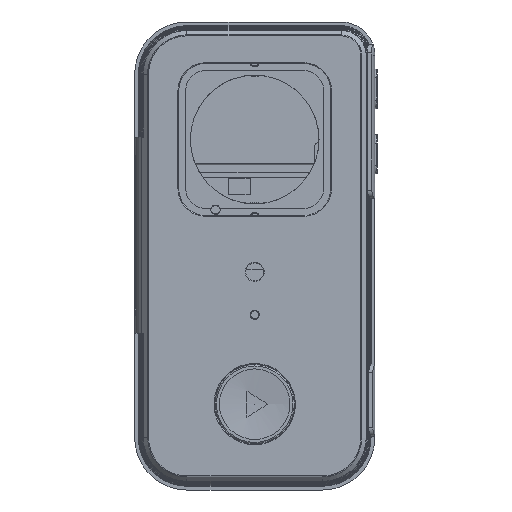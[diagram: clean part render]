
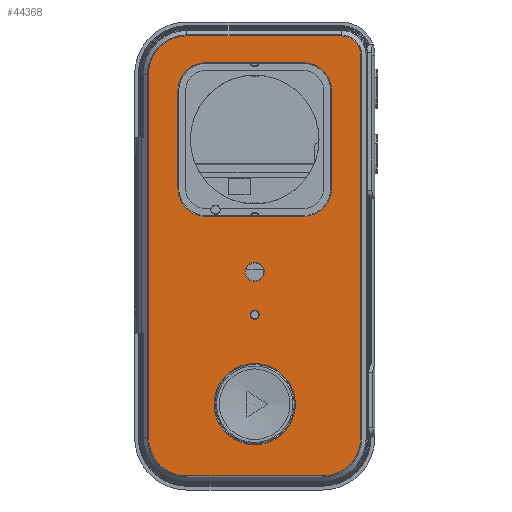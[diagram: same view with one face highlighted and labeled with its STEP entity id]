
A CAD part, top view. The second image highlights one B-rep face of the part: STEP entity #44368.
In plain terms, the highlighted planar face has unit normal (0, 0, 1).
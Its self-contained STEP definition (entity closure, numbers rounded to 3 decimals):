
#43836 = VERTEX_POINT('',#43837);
#43837 = CARTESIAN_POINT('',(21.,130.,19.4));
#43845 = VERTEX_POINT('',#43846);
#43846 = CARTESIAN_POINT('',(51.,130.,19.4));
#43852 = EDGE_CURVE('',#43836,#43845,#43853,.T.);
#43853 = LINE('',#43854,#43855);
#43854 = CARTESIAN_POINT('',(21.,130.,19.4));
#43855 = VECTOR('',#43856,1.);
#43856 = DIRECTION('',(1.,0.,0.));
#44301 = VERTEX_POINT('',#44302);
#44302 = CARTESIAN_POINT('',(59.5,121.5,19.4));
#44308 = EDGE_CURVE('',#43845,#44301,#44309,.T.);
#44309 = CIRCLE('',#44310,8.5);
#44310 = AXIS2_PLACEMENT_3D('',#44311,#44312,#44313);
#44311 = CARTESIAN_POINT('',(51.,121.5,19.4));
#44312 = DIRECTION('',(0.,0.,-1.));
#44313 = DIRECTION('',(0.,1.,0.));
#44348 = VERTEX_POINT('',#44349);
#44349 = CARTESIAN_POINT('',(12.5,121.5,19.4));
#44357 = EDGE_CURVE('',#44348,#43836,#44358,.T.);
#44358 = CIRCLE('',#44359,8.5);
#44359 = AXIS2_PLACEMENT_3D('',#44360,#44361,#44362);
#44360 = CARTESIAN_POINT('',(21.,121.5,19.4));
#44361 = DIRECTION('',(0.,0.,-1.));
#44362 = DIRECTION('',(-1.,0.,0.));
#44368 = ADVANCED_FACE('',(#44369,#44414,#44520,#44531,#44542),#44553,
  .T.);
#44369 = FACE_BOUND('',#44370,.T.);
#44370 = EDGE_LOOP('',(#44371,#44372,#44373,#44381,#44390,#44398,#44407,
    #44413));
#44371 = ORIENTED_EDGE('',*,*,#43852,.T.);
#44372 = ORIENTED_EDGE('',*,*,#44308,.T.);
#44373 = ORIENTED_EDGE('',*,*,#44374,.T.);
#44374 = EDGE_CURVE('',#44301,#44375,#44377,.T.);
#44375 = VERTEX_POINT('',#44376);
#44376 = CARTESIAN_POINT('',(59.5,91.5,19.4));
#44377 = LINE('',#44378,#44379);
#44378 = CARTESIAN_POINT('',(59.5,121.5,19.4));
#44379 = VECTOR('',#44380,1.);
#44380 = DIRECTION('',(0.,-1.,0.));
#44381 = ORIENTED_EDGE('',*,*,#44382,.T.);
#44382 = EDGE_CURVE('',#44375,#44383,#44385,.T.);
#44383 = VERTEX_POINT('',#44384);
#44384 = CARTESIAN_POINT('',(51.,83.,19.4));
#44385 = CIRCLE('',#44386,8.5);
#44386 = AXIS2_PLACEMENT_3D('',#44387,#44388,#44389);
#44387 = CARTESIAN_POINT('',(51.,91.5,19.4));
#44388 = DIRECTION('',(0.,0.,-1.));
#44389 = DIRECTION('',(1.,0.,0.));
#44390 = ORIENTED_EDGE('',*,*,#44391,.T.);
#44391 = EDGE_CURVE('',#44383,#44392,#44394,.T.);
#44392 = VERTEX_POINT('',#44393);
#44393 = CARTESIAN_POINT('',(21.,83.,19.4));
#44394 = LINE('',#44395,#44396);
#44395 = CARTESIAN_POINT('',(51.,83.,19.4));
#44396 = VECTOR('',#44397,1.);
#44397 = DIRECTION('',(-1.,-0.,-0.));
#44398 = ORIENTED_EDGE('',*,*,#44399,.T.);
#44399 = EDGE_CURVE('',#44392,#44400,#44402,.T.);
#44400 = VERTEX_POINT('',#44401);
#44401 = CARTESIAN_POINT('',(12.5,91.5,19.4));
#44402 = CIRCLE('',#44403,8.5);
#44403 = AXIS2_PLACEMENT_3D('',#44404,#44405,#44406);
#44404 = CARTESIAN_POINT('',(21.,91.5,19.4));
#44405 = DIRECTION('',(-0.,-0.,-1.));
#44406 = DIRECTION('',(0.,-1.,0.));
#44407 = ORIENTED_EDGE('',*,*,#44408,.T.);
#44408 = EDGE_CURVE('',#44400,#44348,#44409,.T.);
#44409 = LINE('',#44410,#44411);
#44410 = CARTESIAN_POINT('',(12.5,91.5,19.4));
#44411 = VECTOR('',#44412,1.);
#44412 = DIRECTION('',(0.,1.,0.));
#44413 = ORIENTED_EDGE('',*,*,#44357,.T.);
#44414 = FACE_BOUND('',#44415,.T.);
#44415 = EDGE_LOOP('',(#44416,#44427,#44435,#44444,#44452,#44461,#44469,
    #44478,#44486,#44495,#44504,#44513));
#44416 = ORIENTED_EDGE('',*,*,#44417,.F.);
#44417 = EDGE_CURVE('',#44418,#44420,#44422,.T.);
#44418 = VERTEX_POINT('',#44419);
#44419 = CARTESIAN_POINT('',(3.516,126.5,19.4));
#44420 = VERTEX_POINT('',#44421);
#44421 = CARTESIAN_POINT('',(3.516,126.541,19.4));
#44422 = CIRCLE('',#44423,11.734);
#44423 = AXIS2_PLACEMENT_3D('',#44424,#44425,#44426);
#44424 = CARTESIAN_POINT('',(15.25,126.5,19.4));
#44425 = DIRECTION('',(0.,-0.,-1.));
#44426 = DIRECTION('',(-1.,0.,0.));
#44427 = ORIENTED_EDGE('',*,*,#44428,.F.);
#44428 = EDGE_CURVE('',#44429,#44418,#44431,.T.);
#44429 = VERTEX_POINT('',#44430);
#44430 = CARTESIAN_POINT('',(3.516,15.25,19.4));
#44431 = LINE('',#44432,#44433);
#44432 = CARTESIAN_POINT('',(3.516,15.25,19.4));
#44433 = VECTOR('',#44434,1.);
#44434 = DIRECTION('',(0.,1.,0.));
#44435 = ORIENTED_EDGE('',*,*,#44436,.F.);
#44436 = EDGE_CURVE('',#44437,#44429,#44439,.T.);
#44437 = VERTEX_POINT('',#44438);
#44438 = CARTESIAN_POINT('',(15.25,3.516,19.4));
#44439 = CIRCLE('',#44440,11.734);
#44440 = AXIS2_PLACEMENT_3D('',#44441,#44442,#44443);
#44441 = CARTESIAN_POINT('',(15.25,15.25,19.4));
#44442 = DIRECTION('',(0.,-0.,-1.));
#44443 = DIRECTION('',(0.,-1.,0.));
#44444 = ORIENTED_EDGE('',*,*,#44445,.F.);
#44445 = EDGE_CURVE('',#44446,#44437,#44448,.T.);
#44446 = VERTEX_POINT('',#44447);
#44447 = CARTESIAN_POINT('',(56.75,3.516,19.4));
#44448 = LINE('',#44449,#44450);
#44449 = CARTESIAN_POINT('',(56.75,3.516,19.4));
#44450 = VECTOR('',#44451,1.);
#44451 = DIRECTION('',(-1.,0.,-0.));
#44452 = ORIENTED_EDGE('',*,*,#44453,.F.);
#44453 = EDGE_CURVE('',#44454,#44446,#44456,.T.);
#44454 = VERTEX_POINT('',#44455);
#44455 = CARTESIAN_POINT('',(68.484,15.25,19.4));
#44456 = CIRCLE('',#44457,11.734);
#44457 = AXIS2_PLACEMENT_3D('',#44458,#44459,#44460);
#44458 = CARTESIAN_POINT('',(56.75,15.25,19.4));
#44459 = DIRECTION('',(0.,0.,-1.));
#44460 = DIRECTION('',(1.,0.,0.));
#44461 = ORIENTED_EDGE('',*,*,#44462,.F.);
#44462 = EDGE_CURVE('',#44463,#44454,#44465,.T.);
#44463 = VERTEX_POINT('',#44464);
#44464 = CARTESIAN_POINT('',(68.484,132.25,19.4));
#44465 = LINE('',#44466,#44467);
#44466 = CARTESIAN_POINT('',(68.484,126.5,19.4));
#44467 = VECTOR('',#44468,1.);
#44468 = DIRECTION('',(0.,-1.,0.));
#44469 = ORIENTED_EDGE('',*,*,#44470,.F.);
#44470 = EDGE_CURVE('',#44471,#44463,#44473,.T.);
#44471 = VERTEX_POINT('',#44472);
#44472 = CARTESIAN_POINT('',(62.5,138.234,19.4));
#44473 = CIRCLE('',#44474,5.984);
#44474 = AXIS2_PLACEMENT_3D('',#44475,#44476,#44477);
#44475 = CARTESIAN_POINT('',(62.5,132.25,19.4));
#44476 = DIRECTION('',(0.,0.,-1.));
#44477 = DIRECTION('',(0.,1.,-0.));
#44478 = ORIENTED_EDGE('',*,*,#44479,.F.);
#44479 = EDGE_CURVE('',#44480,#44471,#44482,.T.);
#44480 = VERTEX_POINT('',#44481);
#44481 = CARTESIAN_POINT('',(15.25,138.234,19.4));
#44482 = LINE('',#44483,#44484);
#44483 = CARTESIAN_POINT('',(9.5,138.234,19.4));
#44484 = VECTOR('',#44485,1.);
#44485 = DIRECTION('',(1.,0.,0.));
#44486 = ORIENTED_EDGE('',*,*,#44487,.F.);
#44487 = EDGE_CURVE('',#44488,#44480,#44490,.T.);
#44488 = VERTEX_POINT('',#44489);
#44489 = CARTESIAN_POINT('',(3.678,128.443,19.4));
#44490 = CIRCLE('',#44491,11.734);
#44491 = AXIS2_PLACEMENT_3D('',#44492,#44493,#44494);
#44492 = CARTESIAN_POINT('',(15.25,126.5,19.4));
#44493 = DIRECTION('',(0.,-0.,-1.));
#44494 = DIRECTION('',(-1.,0.,0.));
#44495 = ORIENTED_EDGE('',*,*,#44496,.F.);
#44496 = EDGE_CURVE('',#44497,#44488,#44499,.T.);
#44497 = VERTEX_POINT('',#44498);
#44498 = CARTESIAN_POINT('',(3.605,127.943,19.4));
#44499 = CIRCLE('',#44500,11.734);
#44500 = AXIS2_PLACEMENT_3D('',#44501,#44502,#44503);
#44501 = CARTESIAN_POINT('',(15.25,126.5,19.4));
#44502 = DIRECTION('',(0.,-0.,-1.));
#44503 = DIRECTION('',(-1.,0.,0.));
#44504 = ORIENTED_EDGE('',*,*,#44505,.F.);
#44505 = EDGE_CURVE('',#44506,#44497,#44508,.T.);
#44506 = VERTEX_POINT('',#44507);
#44507 = CARTESIAN_POINT('',(3.531,127.08,19.4));
#44508 = CIRCLE('',#44509,11.734);
#44509 = AXIS2_PLACEMENT_3D('',#44510,#44511,#44512);
#44510 = CARTESIAN_POINT('',(15.25,126.5,19.4));
#44511 = DIRECTION('',(0.,0.,-1.));
#44512 = DIRECTION('',(-1.,0.,0.));
#44513 = ORIENTED_EDGE('',*,*,#44514,.F.);
#44514 = EDGE_CURVE('',#44420,#44506,#44515,.T.);
#44515 = CIRCLE('',#44516,11.734);
#44516 = AXIS2_PLACEMENT_3D('',#44517,#44518,#44519);
#44517 = CARTESIAN_POINT('',(15.25,126.5,19.4));
#44518 = DIRECTION('',(0.,-0.,-1.));
#44519 = DIRECTION('',(-1.,0.,0.));
#44520 = FACE_BOUND('',#44521,.T.);
#44521 = EDGE_LOOP('',(#44522));
#44522 = ORIENTED_EDGE('',*,*,#44523,.F.);
#44523 = EDGE_CURVE('',#44524,#44524,#44526,.T.);
#44524 = VERTEX_POINT('',#44525);
#44525 = CARTESIAN_POINT('',(48.45,25.5,19.4));
#44526 = CIRCLE('',#44527,12.45);
#44527 = AXIS2_PLACEMENT_3D('',#44528,#44529,#44530);
#44528 = CARTESIAN_POINT('',(36.,25.5,19.4));
#44529 = DIRECTION('',(0.,0.,1.));
#44530 = DIRECTION('',(1.,0.,0.));
#44531 = FACE_BOUND('',#44532,.T.);
#44532 = EDGE_LOOP('',(#44533));
#44533 = ORIENTED_EDGE('',*,*,#44534,.F.);
#44534 = EDGE_CURVE('',#44535,#44535,#44537,.T.);
#44535 = VERTEX_POINT('',#44536);
#44536 = CARTESIAN_POINT('',(38.9,66.,19.4));
#44537 = CIRCLE('',#44538,2.9);
#44538 = AXIS2_PLACEMENT_3D('',#44539,#44540,#44541);
#44539 = CARTESIAN_POINT('',(36.,66.,19.4));
#44540 = DIRECTION('',(0.,0.,1.));
#44541 = DIRECTION('',(1.,0.,0.));
#44542 = FACE_BOUND('',#44543,.T.);
#44543 = EDGE_LOOP('',(#44544));
#44544 = ORIENTED_EDGE('',*,*,#44545,.F.);
#44545 = EDGE_CURVE('',#44546,#44546,#44548,.T.);
#44546 = VERTEX_POINT('',#44547);
#44547 = CARTESIAN_POINT('',(37.4,52.875,19.4));
#44548 = CIRCLE('',#44549,1.4);
#44549 = AXIS2_PLACEMENT_3D('',#44550,#44551,#44552);
#44550 = CARTESIAN_POINT('',(36.,52.875,19.4));
#44551 = DIRECTION('',(0.,0.,1.));
#44552 = DIRECTION('',(1.,0.,0.));
#44553 = PLANE('',#44554);
#44554 = AXIS2_PLACEMENT_3D('',#44555,#44556,#44557);
#44555 = CARTESIAN_POINT('',(36.235,71.364,19.4));
#44556 = DIRECTION('',(0.,0.,1.));
#44557 = DIRECTION('',(1.,0.,0.));
